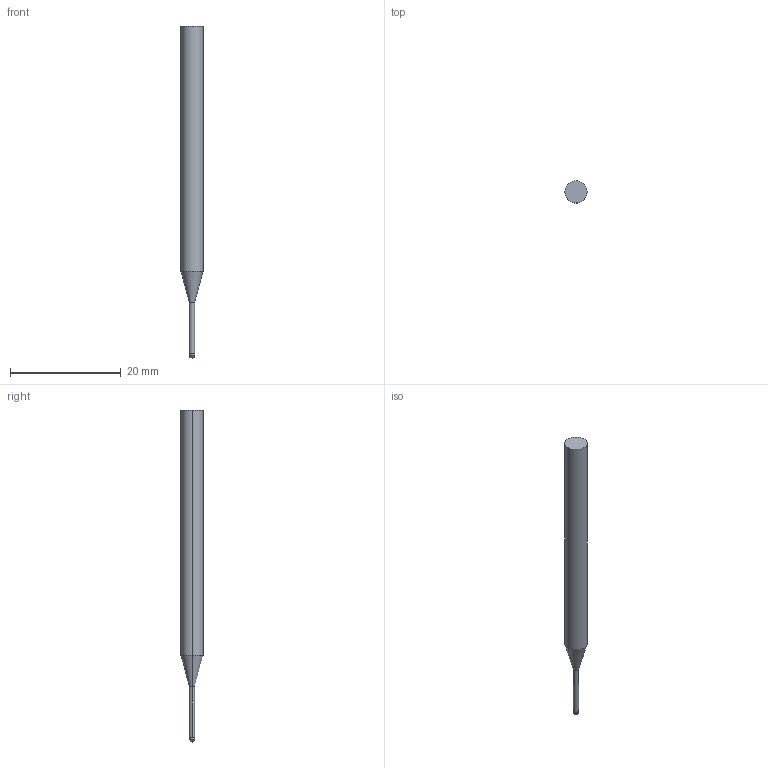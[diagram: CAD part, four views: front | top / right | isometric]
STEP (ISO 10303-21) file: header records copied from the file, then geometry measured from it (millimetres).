
FILE_DESCRIPTION(('STEP AP214'),'1');
FILE_NAME('cctmp_A98173D7-4B64-490A-AB1A-80B6387AD611_2020_10_07_07_19_00_0099..stp','2020-10-07T05:19:00',('Meusburger Georg GmbH & Co KG'),('CADClick - www.CADClick.com'),'Spatial InterOp 3D',' ','unknown authorization');
FILE_SCHEMA(('AUTOMOTIVE_DESIGN { 1 0 10303 214 1 1 1 1 }'));
Length unit declared in the file: millimetre
Products named in the file (1): WZF289967_1_10
Bounding box: 4 x 4 x 59.99 mm (x, y, z)
Volume: 594.7 mm3; surface area: 645.2 mm2
Topology: 1 solids, 1 shells, 12 faces, 24 edges, 13 vertices
Faces by surface type: cylinder 6, cone 2, sphere 2, plane 2
Entity records: 420 total; most frequent: DIRECTION 62, CARTESIAN_POINT 48, ORIENTED_EDGE 44, AXIS2_PLACEMENT_3D 27, EDGE_CURVE 22, CIRCLE 14, STYLED_ITEM 13, PRESENTATION_STYLE_ASSIGNMENT 13
